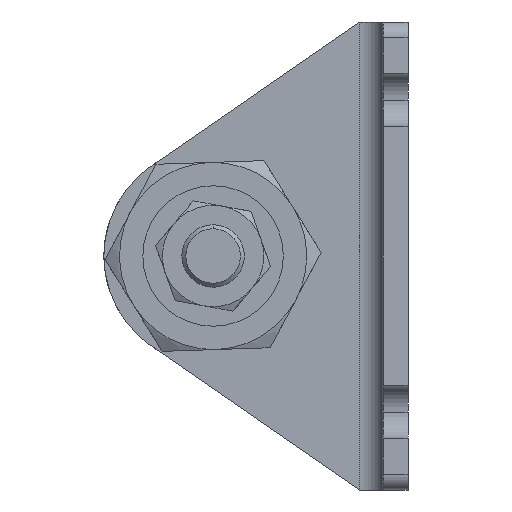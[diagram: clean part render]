
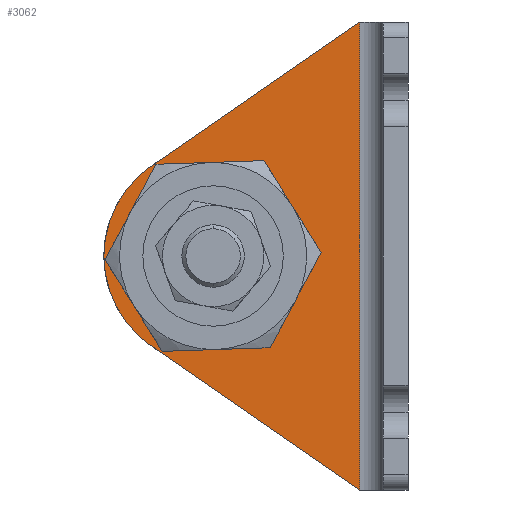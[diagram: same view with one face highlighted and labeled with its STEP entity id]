
A CAD part, left-side view. The second image highlights one B-rep face of the part: STEP entity #3062.
In plain terms, the highlighted planar face has unit normal (-1, 0, 0) as drawn and (1, 0, 0) by its records, which use the part's own axes.
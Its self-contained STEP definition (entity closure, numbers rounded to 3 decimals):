
#84 = DIRECTION ( 'NONE',  ( 0., 1., 0. ) ) ;
#86 = EDGE_CURVE ( 'NONE', #2491, #1726, #3788, .T. ) ;
#122 = CARTESIAN_POINT ( 'NONE',  ( 3.2, 32.956, -41.519 ) ) ;
#251 = AXIS2_PLACEMENT_3D ( 'NONE', #2838, #1939, #1052 ) ;
#277 = LINE ( 'NONE', #533, #415 ) ;
#382 = AXIS2_PLACEMENT_3D ( 'NONE', #3700, #3043, #84 ) ;
#415 = VECTOR ( 'NONE', #3798, 1000. ) ;
#436 = EDGE_LOOP ( 'NONE', ( #1964, #3172 ) ) ;
#479 = AXIS2_PLACEMENT_3D ( 'NONE', #3758, #775, #3112 ) ;
#506 = VECTOR ( 'NONE', #2097, 1000. ) ;
#533 = CARTESIAN_POINT ( 'NONE',  ( 3.2, 32.226, -17.976 ) ) ;
#581 = EDGE_CURVE ( 'NONE', #1620, #2520, #1260, .T. ) ;
#598 = EDGE_CURVE ( 'NONE', #2520, #1154, #2722, .T. ) ;
#624 = ORIENTED_EDGE ( 'NONE', *, *, #86, .T. ) ;
#749 = ORIENTED_EDGE ( 'NONE', *, *, #3882, .F. ) ;
#775 = DIRECTION ( 'NONE',  ( 1., 0., 0. ) ) ;
#878 = ORIENTED_EDGE ( 'NONE', *, *, #581, .T. ) ;
#936 = CARTESIAN_POINT ( 'NONE',  ( 3.2, 25., -30. ) ) ;
#941 = EDGE_CURVE ( 'NONE', #1154, #2491, #2492, .T. ) ;
#1043 = CARTESIAN_POINT ( 'NONE',  ( 3.2, 25., -30. ) ) ;
#1052 = DIRECTION ( 'NONE',  ( 0., 1., 0. ) ) ;
#1154 = VERTEX_POINT ( 'NONE', #122 ) ;
#1205 = EDGE_CURVE ( 'NONE', #2195, #3215, #2353, .T. ) ;
#1227 = ORIENTED_EDGE ( 'NONE', *, *, #941, .T. ) ;
#1260 = LINE ( 'NONE', #3858, #1936 ) ;
#1359 = DIRECTION ( 'NONE',  ( 1., 0., 0. ) ) ;
#1418 = DIRECTION ( 'NONE',  ( 0., 0., -1. ) ) ;
#1560 = PLANE ( 'NONE',  #382 ) ;
#1620 = VERTEX_POINT ( 'NONE', #3677 ) ;
#1640 = CIRCLE ( 'NONE', #2554, 9.5 ) ;
#1726 = VERTEX_POINT ( 'NONE', #2840 ) ;
#1767 = CARTESIAN_POINT ( 'NONE',  ( 3.2, 4.169, -61.403 ) ) ;
#1792 = FACE_BOUND ( 'NONE', #436, .T. ) ;
#1843 = CARTESIAN_POINT ( 'NONE',  ( 3.2, 34.5, -30. ) ) ;
#1885 = DIRECTION ( 'NONE',  ( 0., 1., 0. ) ) ;
#1936 = VECTOR ( 'NONE', #1418, 1000. ) ;
#1939 = DIRECTION ( 'NONE',  ( 1., 0., 0. ) ) ;
#1964 = ORIENTED_EDGE ( 'NONE', *, *, #1205, .F. ) ;
#2073 = FACE_OUTER_BOUND ( 'NONE', #3590, .T. ) ;
#2097 = DIRECTION ( 'NONE',  ( 0., 0.823, 0.568 ) ) ;
#2195 = VERTEX_POINT ( 'NONE', #1843 ) ;
#2198 = EDGE_CURVE ( 'NONE', #3215, #2195, #1640, .T. ) ;
#2353 = CIRCLE ( 'NONE', #479, 9.5 ) ;
#2439 = DIRECTION ( 'NONE',  ( 1., 0., 0. ) ) ;
#2471 = ORIENTED_EDGE ( 'NONE', *, *, #598, .T. ) ;
#2491 = VERTEX_POINT ( 'NONE', #3487 ) ;
#2492 = CIRCLE ( 'NONE', #2723, 14. ) ;
#2520 = VERTEX_POINT ( 'NONE', #2561 ) ;
#2554 = AXIS2_PLACEMENT_3D ( 'NONE', #936, #2439, #1885 ) ;
#2561 = CARTESIAN_POINT ( 'NONE',  ( 3.2, 6.2, -60. ) ) ;
#2722 = LINE ( 'NONE', #1767, #506 ) ;
#2723 = AXIS2_PLACEMENT_3D ( 'NONE', #1043, #1359, #3465 ) ;
#2838 = CARTESIAN_POINT ( 'NONE',  ( 3.2, 25., -30. ) ) ;
#2840 = CARTESIAN_POINT ( 'NONE',  ( 3.2, 32.956, -18.481 ) ) ;
#2865 = CARTESIAN_POINT ( 'NONE',  ( 3.2, 15.5, -30. ) ) ;
#3043 = DIRECTION ( 'NONE',  ( 1., 0., 0. ) ) ;
#3062 = ADVANCED_FACE ( 'NONE', ( #1792, #2073 ), #1560, .T. ) ;
#3112 = DIRECTION ( 'NONE',  ( 0., 1., 0. ) ) ;
#3172 = ORIENTED_EDGE ( 'NONE', *, *, #2198, .F. ) ;
#3215 = VERTEX_POINT ( 'NONE', #2865 ) ;
#3465 = DIRECTION ( 'NONE',  ( 0., 1., 0. ) ) ;
#3487 = CARTESIAN_POINT ( 'NONE',  ( 3.2, 39., -30. ) ) ;
#3590 = EDGE_LOOP ( 'NONE', ( #2471, #1227, #624, #749, #878 ) ) ;
#3677 = CARTESIAN_POINT ( 'NONE',  ( 3.2, 6.2, 0. ) ) ;
#3700 = CARTESIAN_POINT ( 'NONE',  ( 3.2, 3.2, -60. ) ) ;
#3758 = CARTESIAN_POINT ( 'NONE',  ( 3.2, 25., -30. ) ) ;
#3788 = CIRCLE ( 'NONE', #251, 14. ) ;
#3798 = DIRECTION ( 'NONE',  ( 0., 0.823, -0.568 ) ) ;
#3858 = CARTESIAN_POINT ( 'NONE',  ( 3.2, 6.2, -60. ) ) ;
#3882 = EDGE_CURVE ( 'NONE', #1620, #1726, #277, .T. ) ;
